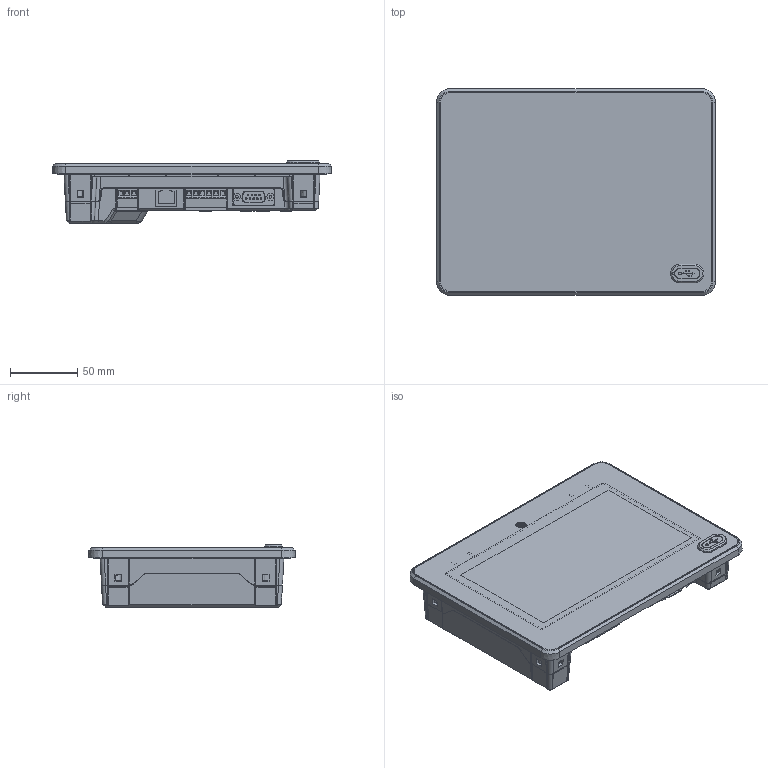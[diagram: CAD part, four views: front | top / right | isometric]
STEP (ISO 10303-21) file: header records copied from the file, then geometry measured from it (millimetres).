
FILE_DESCRIPTION((''),'2;1');
FILE_NAME('EXP40_TTA','2016-08-09T',('jwkwack'),(''),'PRO/ENGINEER BY PARAMETRIC TECHNOLOGY CORPORATION, 2013240','PRO/ENGINEER BY PARAMETRIC TECHNOLOGY CORPORATION, 2013240','');
FILE_SCHEMA(('CONFIG_CONTROL_DESIGN'));
Products named in the file (1): EXP40_TTA
Bounding box: 208 x 154 x 46.95 mm (x, y, z)
Surface area: 307417 mm2 (no closed solid volume)
Topology: 0 solids, 27 shells, 8159 faces, 22603 edges, 14701 vertices
Faces by surface type: plane 4828, extrusion 1624, cylinder 1120, cone 259, bspline 180, torus 126, sphere 22
Entity records: 277155 total; most frequent: CARTESIAN_POINT 77712, ORIENTED_EDGE 44795, DIRECTION 33880, EDGE_CURVE 22578, VECTOR 17240, LINE 15616, VERTEX_POINT 14702, EDGE_LOOP 8706
